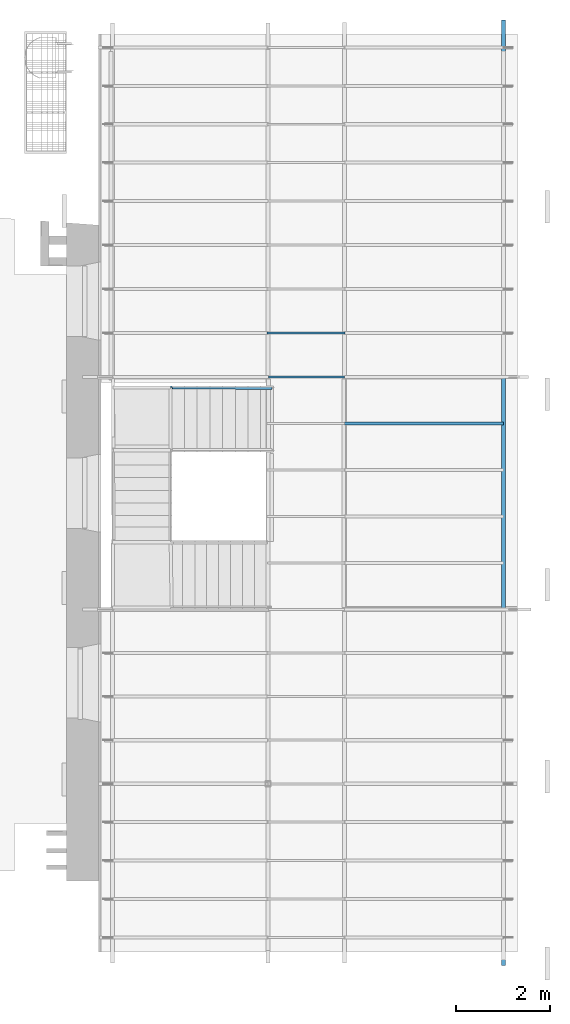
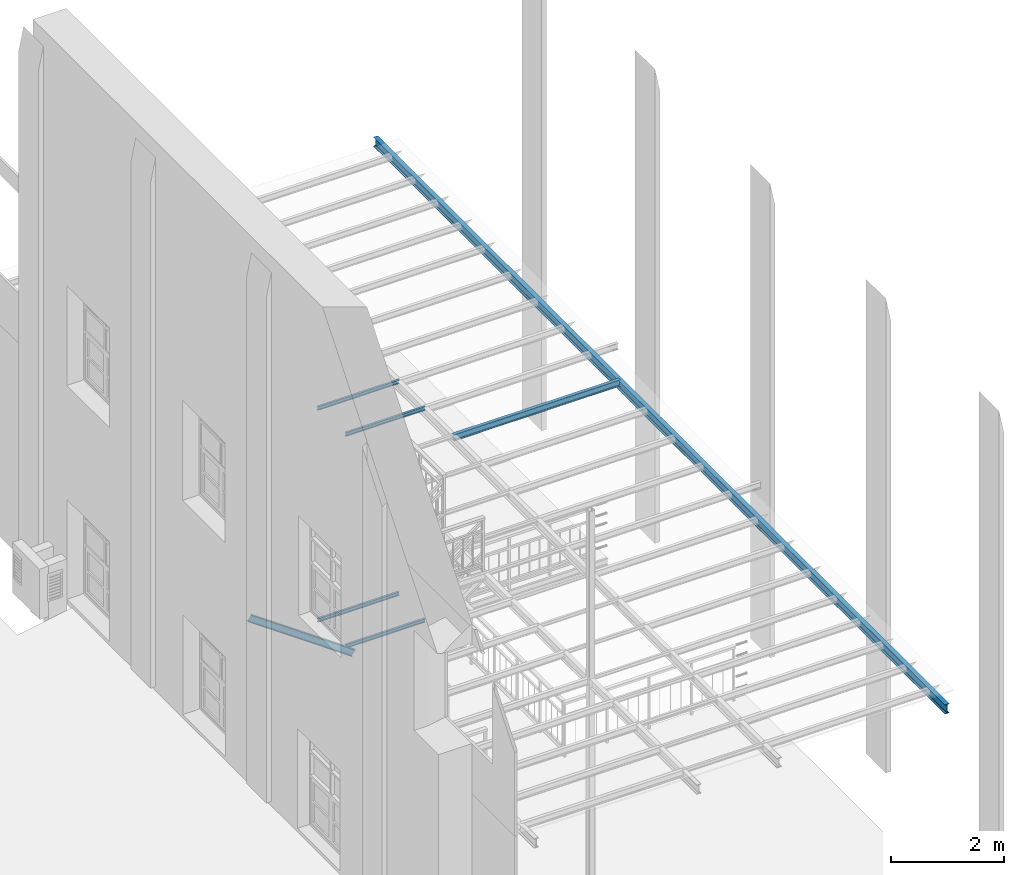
# One storey, part 15 of 33: 7 beams.
"""IFC2X3 building model written with IfcOpenShell, lengths in metres."""

from ifc_helpers import new_model, entity, si_unit, converted_unit, derived_unit, direction, frame, frame_2d, origin, place, context, subcontext, project, spatial, polyline, circle_curve, parameter, trimmed, segment, composite_curve, outline, extrude, material, type_object, element, save


model = new_model("IFC2X3")

# Units and contexts
model_context = context("Model", 3, precision=1e-05, world=origin(), true_north=direction((6.12303176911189e-17, 1.0)))
body_context = subcontext(model_context, "Body", "Model", "MODEL_VIEW")
ifc_project = project(units=[si_unit("LENGTHUNIT", "METRE"), si_unit("AREAUNIT", "SQUARE_METRE"), si_unit("VOLUMEUNIT", "CUBIC_METRE"), converted_unit("PLANEANGLEUNIT", "DEGREE", entity("IfcRatioMeasure", 0.0174532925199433), si_unit("PLANEANGLEUNIT", "RADIAN"), dimensions=[0, 0, 0, 0, 0, 0, 0]), si_unit("MASSUNIT", "GRAM", prefix="KILO"), derived_unit("MASSDENSITYUNIT", [(si_unit("MASSUNIT", "GRAM", prefix="KILO"), 1), (si_unit("LENGTHUNIT", "METRE"), -3)]), derived_unit("MOMENTOFINERTIAUNIT", [(si_unit("LENGTHUNIT", "METRE"), 4)]), si_unit("TIMEUNIT", "SECOND"), si_unit("FREQUENCYUNIT", "HERTZ"), si_unit("THERMODYNAMICTEMPERATUREUNIT", "DEGREE_CELSIUS"), derived_unit("THERMALTRANSMITTANCEUNIT", [(si_unit("MASSUNIT", "GRAM", prefix="KILO"), 1), (si_unit("THERMODYNAMICTEMPERATUREUNIT", "KELVIN"), -1), (si_unit("TIMEUNIT", "SECOND"), -3)]), derived_unit("VOLUMETRICFLOWRATEUNIT", [(si_unit("LENGTHUNIT", "METRE"), 3), (si_unit("TIMEUNIT", "SECOND"), -1)]), si_unit("ELECTRICCURRENTUNIT", "AMPERE"), si_unit("ELECTRICVOLTAGEUNIT", "VOLT"), si_unit("POWERUNIT", "WATT"), si_unit("FORCEUNIT", "NEWTON", prefix="KILO"), si_unit("ILLUMINANCEUNIT", "LUX"), si_unit("LUMINOUSFLUXUNIT", "LUMEN"), si_unit("LUMINOUSINTENSITYUNIT", "CANDELA"), derived_unit("USERDEFINED", [(si_unit("MASSUNIT", "GRAM", prefix="KILO"), -1), (si_unit("LENGTHUNIT", "METRE"), -2), (si_unit("TIMEUNIT", "SECOND"), 3), (si_unit("LUMINOUSFLUXUNIT", "LUMEN"), 1)]), derived_unit("LINEARVELOCITYUNIT", [(si_unit("LENGTHUNIT", "METRE"), 1), (si_unit("TIMEUNIT", "SECOND"), -1)]), si_unit("PRESSUREUNIT", "PASCAL"), derived_unit("USERDEFINED", [(si_unit("LENGTHUNIT", "METRE"), -2), (si_unit("MASSUNIT", "GRAM", prefix="KILO"), 1), (si_unit("TIMEUNIT", "SECOND"), -2)]), derived_unit("LINEARFORCEUNIT", [(si_unit("MASSUNIT", "GRAM", prefix="KILO"), 1), (si_unit("LENGTHUNIT", "METRE"), 1), (si_unit("TIMEUNIT", "SECOND"), -2), (si_unit("LENGTHUNIT", "METRE"), -1)]), derived_unit("PLANARFORCEUNIT", [(si_unit("MASSUNIT", "GRAM", prefix="KILO"), 1), (si_unit("LENGTHUNIT", "METRE"), 1), (si_unit("TIMEUNIT", "SECOND"), -2), (si_unit("LENGTHUNIT", "METRE"), -2)])], contexts=[model_context])

# Site, building, storey
site_placement = place(None, origin())
site = spatial("IfcSite", under=ifc_project, at=site_placement, Name="Superficie", CompositionType="ELEMENT")
building_placement = place(site_placement, origin())
building = spatial("IfcBuilding", under=site, at=building_placement, Name="Telegestiones", CompositionType="ELEMENT")
storey_placement = place(building_placement, frame((0.0, 0.0, 4.94)))
storey = spatial("IfcBuildingStorey", under=building, at=storey_placement, Name="Nivel 1_NPT", CompositionType="ELEMENT", Elevation=4.94)

# Beams
ifc_material = material(Name="Metal - Acero - 345 MPa")
beam_type_1 = type_object("IfcBeamType", Name="IPN - Secciones en I con alas cónicas:IPN 200", PredefinedType="NOTDEFINED")
beam_1_placement = place(storey_placement, frame((14.6648126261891, 14.0436072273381, 4.56), z_axis=(0.0, 0.0, 1.0), x_axis=(0.0, -1.0, 0.0)))
element("IfcBeam", 1, at=beam_1_placement, inside=storey, type_object=beam_type_1, material=ifc_material, Name="IPN - Secciones en I con alas cónicas:IPN 200", ObjectType="IPN - Secciones en I con alas cónicas:IPN 200", context=body_context, shape_type="SweptSolid", body=[
    extrude(outline(composite_curve([segment(polyline([(0.0957638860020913, -0.0449999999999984), (0.100000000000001, -0.0449999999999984)]), True, "CONTINUOUS"), segment(polyline([(0.100000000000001, -0.0449999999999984), (0.100000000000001, 0.0450000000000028)]), True, "CONTINUOUS"), segment(polyline([(0.100000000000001, 0.0450000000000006), (0.0957638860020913, 0.0450000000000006)]), True, "CONTINUOUS"), segment(trimmed(circle_curve(frame_2d((0.0957638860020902, 0.0405000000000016), x_axis=(0.0, 1.0)), 0.00449999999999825), [parameter(0.0)], [parameter(82.0303896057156)], True, "PARAMETER"), True, "CONTINUOUS"), segment(polyline([(0.0913073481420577, 0.0411239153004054), (0.0869794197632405, 0.0102101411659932)]), True, "CONTINUOUS"), segment(trimmed(circle_curve(frame_2d((0.0795518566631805, 0.0112500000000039), x_axis=(0.990341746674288, -0.138647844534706)), 0.00750000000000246), [parameter(277.969610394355)], [parameter(0.0)], True, "PARAMETER"), False, "CONTINUOUS"), segment(polyline([(0.0795518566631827, 0.00375000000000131), (-0.0795518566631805, 0.00375000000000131)]), True, "CONTINUOUS"), segment(trimmed(circle_curve(frame_2d((-0.0795518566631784, 0.0112500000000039), x_axis=(0.0, -1.0)), 0.00750000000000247), [parameter(277.969610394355)], [parameter(0.0)], True, "PARAMETER"), False, "CONTINUOUS"), segment(polyline([(-0.0869794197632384, 0.0102101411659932), (-0.0913073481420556, 0.0411239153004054)]), True, "CONTINUOUS"), segment(trimmed(circle_curve(frame_2d((-0.0957638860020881, 0.0405000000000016), x_axis=(0.990341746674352, 0.138647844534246)), 0.00449999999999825), [parameter(0.0)], [parameter(82.0303896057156)], True, "PARAMETER"), True, "CONTINUOUS"), segment(polyline([(-0.0957638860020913, 0.0450000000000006), (-0.0999999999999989, 0.0450000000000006)]), True, "CONTINUOUS"), segment(polyline([(-0.0999999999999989, 0.0450000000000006), (-0.0999999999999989, -0.0449999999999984)]), True, "CONTINUOUS"), segment(polyline([(-0.0999999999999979, -0.0449999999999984), (-0.0957638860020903, -0.0449999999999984)]), True, "CONTINUOUS"), segment(trimmed(circle_curve(frame_2d((-0.0957638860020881, -0.0404999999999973), x_axis=(0.0, -1.0)), 0.00449999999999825), [parameter(0.0)], [parameter(82.0303896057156)], True, "PARAMETER"), True, "CONTINUOUS"), segment(polyline([(-0.0913073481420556, -0.0411239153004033), (-0.0869794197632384, -0.0102101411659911)]), True, "CONTINUOUS"), segment(trimmed(circle_curve(frame_2d((-0.0795518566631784, -0.0112499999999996), x_axis=(-0.990341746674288, 0.138647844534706)), 0.00750000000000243), [parameter(277.969610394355)], [parameter(0.0)], True, "PARAMETER"), False, "CONTINUOUS"), segment(polyline([(-0.0795518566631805, -0.00374999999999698), (0.0795518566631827, -0.00374999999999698)]), True, "CONTINUOUS"), segment(trimmed(circle_curve(frame_2d((0.0795518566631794, -0.0112499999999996), x_axis=(0.0, 1.0)), 0.00750000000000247), [parameter(277.969610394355)], [parameter(0.0)], True, "PARAMETER"), False, "CONTINUOUS"), segment(polyline([(0.0869794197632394, -0.0102101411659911), (0.0913073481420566, -0.0411239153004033)]), True, "CONTINUOUS"), segment(trimmed(circle_curve(frame_2d((0.0957638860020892, -0.0404999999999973), x_axis=(-0.990341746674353, -0.138647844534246)), 0.00449999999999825), [parameter(0.0)], [parameter(82.0303896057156)], True, "PARAMETER"), True, "CONTINUOUS")], self_intersect=False)), frame((0.000487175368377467, 0.0, -0.130000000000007), z_axis=(1.0, 0.0, 0.0), x_axis=(0.0, 0.0, -1.0)), (0.0, 0.0, 1.0), 20.145),
])
beam_type_2 = type_object("IfcBeamType", Name="IPN - Secciones en I con alas cónicas:IPN 140", PredefinedType="NOTDEFINED")
beam_2_placement = place(storey_placement, frame((11.2748126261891, 5.44540459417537, 4.56)))
element("IfcBeam", 2, at=beam_2_placement, inside=storey, type_object=beam_type_2, material=ifc_material, Name="IPN - Secciones en I con alas cónicas:IPN 140", ObjectType="IPN - Secciones en I con alas cónicas:IPN 140", context=body_context, shape_type="SweptSolid", body=[
    extrude(outline(composite_curve([segment(polyline([(0.0666671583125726, -0.0330000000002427), (0.0699999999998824, -0.0330000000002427)]), True, "CONTINUOUS"), segment(polyline([(0.0699999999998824, -0.0330000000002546), (0.0700000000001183, 0.0329999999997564)]), True, "CONTINUOUS"), segment(polyline([(0.0700000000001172, 0.0329999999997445), (0.0666671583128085, 0.0329999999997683)]), True, "CONTINUOUS"), segment(trimmed(circle_curve(frame_2d((0.0666671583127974, 0.029599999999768), x_axis=(0.0, 1.0)), 0.00340000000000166), [parameter(0.0)], [parameter(82.0303896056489)], True, "PARAMETER"), True, "CONTINUOUS"), segment(polyline([(0.063299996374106, 0.030071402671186), (0.0601763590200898, 0.00775970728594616)]), True, "CONTINUOUS"), segment(trimmed(circle_curve(frame_2d((0.054531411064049, 0.00854999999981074), x_axis=(0.990341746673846, -0.138647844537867)), 0.00569999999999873), [parameter(277.969610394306)], [parameter(0.0)], True, "PARAMETER"), False, "CONTINUOUS"), segment(polyline([(0.0545314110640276, 0.00284999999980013), (-0.0545314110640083, 0.00285000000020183)]), True, "CONTINUOUS"), segment(trimmed(circle_curve(frame_2d((-0.054531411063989, 0.00855000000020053), x_axis=(0.0, -1.0)), 0.00569999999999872), [parameter(277.969610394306)], [parameter(0.0)], True, "PARAMETER"), False, "CONTINUOUS"), segment(polyline([(-0.0601763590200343, 0.00775970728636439), (-0.0632999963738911, 0.0300714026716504)]), True, "CONTINUOUS"), segment(trimmed(circle_curve(frame_2d((-0.0666671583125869, 0.0296000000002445), x_axis=(0.990341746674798, 0.138647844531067)), 0.00340000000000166), [parameter(0.0)], [parameter(82.0303896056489)], True, "PARAMETER"), True, "CONTINUOUS"), segment(polyline([(-0.0666671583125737, 0.0330000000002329), (-0.0699999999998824, 0.0330000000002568)]), True, "CONTINUOUS"), segment(polyline([(-0.0699999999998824, 0.0330000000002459), (-0.0700000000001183, -0.0329999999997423)]), True, "CONTINUOUS"), segment(polyline([(-0.0700000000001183, -0.0329999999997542), (-0.0666671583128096, -0.0329999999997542)]), True, "CONTINUOUS"), segment(trimmed(circle_curve(frame_2d((-0.0666671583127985, -0.0295999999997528), x_axis=(0.0, -1.0)), 0.00340000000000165), [parameter(0.0)], [parameter(82.0303896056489)], True, "PARAMETER"), True, "CONTINUOUS"), segment(polyline([(-0.063299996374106, -0.0300714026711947), (-0.0601763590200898, -0.007759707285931)]), True, "CONTINUOUS"), segment(trimmed(circle_curve(frame_2d((-0.054531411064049, -0.00854999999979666), x_axis=(-0.990341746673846, 0.138647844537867)), 0.00569999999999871), [parameter(277.969610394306)], [parameter(0.0)], True, "PARAMETER"), False, "CONTINUOUS"), segment(polyline([(-0.0545314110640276, -0.00284999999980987), (0.0545314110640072, -0.00285000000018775)]), True, "CONTINUOUS"), segment(trimmed(circle_curve(frame_2d((0.0545314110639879, -0.00855000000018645), x_axis=(0.0, 1.0)), 0.0056999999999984), [parameter(277.969610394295)], [parameter(0.0)], True, "PARAMETER"), False, "CONTINUOUS"), segment(polyline([(0.0601763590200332, -0.00775970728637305), (0.06329999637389, -0.0300714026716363)]), True, "CONTINUOUS"), segment(trimmed(circle_curve(frame_2d((0.0666671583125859, -0.0296000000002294), x_axis=(-0.990341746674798, -0.138647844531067)), 0.00340000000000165), [parameter(0.0)], [parameter(82.0303896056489)], True, "PARAMETER"), True, "CONTINUOUS")], self_intersect=False)), frame((0.0, 0.0, -0.100000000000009), z_axis=(1.0, 0.0, 0.0), x_axis=(0.0, 0.0, -1.0)), (0.0, 0.0, 1.0), 3.39),
])
beam_3_placement = place(storey_placement, frame((9.69756272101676, 6.20956539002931, -0.00569186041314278), z_axis=(0.575493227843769, -0.000740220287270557, 0.817806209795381), x_axis=(-0.817805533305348, 0.00105189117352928, 0.575493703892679)))
element("IfcBeam", 3, at=beam_3_placement, inside=storey, type_object=beam_type_2, material=ifc_material, Name="IPN - Secciones en I con alas cónicas:IPN 140", ObjectType="IPN - Secciones en I con alas cónicas:IPN 140", context=body_context, shape_type="SweptSolid", body=[
    extrude(outline(composite_curve([segment(polyline([(-0.0700000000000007, -0.0329999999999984), (-0.0666671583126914, -0.0329999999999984)]), True, "CONTINUOUS"), segment(trimmed(circle_curve(frame_2d((-0.0666671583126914, -0.0295999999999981), x_axis=(0.0, -1.0)), 0.00339999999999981), [parameter(0.0)], [parameter(82.0303896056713)], True, "PARAMETER"), True, "CONTINUOUS"), segment(polyline([(-0.0632999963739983, -0.0300714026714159), (-0.0601763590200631, -0.0077597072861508)]), True, "CONTINUOUS"), segment(trimmed(circle_curve(frame_2d((-0.0545314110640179, -0.00854999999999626), x_axis=(-0.990341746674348, 0.138647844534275)), 0.00569999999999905), [parameter(277.969610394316)], [parameter(0.0)], True, "PARAMETER"), False, "CONTINUOUS"), segment(polyline([(-0.0545314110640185, -0.00284999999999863), (0.054531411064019, -0.00284999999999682)]), True, "CONTINUOUS"), segment(trimmed(circle_curve(frame_2d((0.054531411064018, -0.00854999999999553), x_axis=(0.0, 1.0)), 0.00569999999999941), [parameter(277.969610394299)], [parameter(0.0)], True, "PARAMETER"), False, "CONTINUOUS"), segment(polyline([(0.0601763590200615, -0.00775970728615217), (0.0632999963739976, -0.030071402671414)]), True, "CONTINUOUS"), segment(trimmed(circle_curve(frame_2d((0.0666671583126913, -0.0295999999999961), x_axis=(-0.990341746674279, -0.138647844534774)), 0.00340000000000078), [parameter(0.0)], [parameter(82.0303896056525)], True, "PARAMETER"), True, "CONTINUOUS"), segment(polyline([(0.0666671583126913, -0.0329999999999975), (0.0699999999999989, -0.0329999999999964)]), True, "CONTINUOUS"), segment(polyline([(0.0699999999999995, -0.0329999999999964), (0.069999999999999, 0.0330000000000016)]), True, "CONTINUOUS"), segment(polyline([(0.0699999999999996, 0.0330000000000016), (0.0666671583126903, 0.0330000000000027)]), True, "CONTINUOUS"), segment(trimmed(circle_curve(frame_2d((0.0666671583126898, 0.0296000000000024), x_axis=(0.0, 1.0)), 0.0034000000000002), [parameter(0.0)], [parameter(82.0303896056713)], True, "PARAMETER"), True, "CONTINUOUS"), segment(polyline([(0.0632999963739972, 0.0300714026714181), (0.0601763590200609, 0.00775970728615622)]), True, "CONTINUOUS"), segment(trimmed(circle_curve(frame_2d((0.0545314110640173, 0.00855000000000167), x_axis=(0.990341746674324, -0.13864784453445)), 0.0057000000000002), [parameter(277.969610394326)], [parameter(0.0)], True, "PARAMETER"), False, "CONTINUOUS"), segment(polyline([(0.0545314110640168, 0.00285000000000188), (-0.0545314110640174, 0.00285000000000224)]), True, "CONTINUOUS"), segment(trimmed(circle_curve(frame_2d((-0.0545314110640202, 0.00854999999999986), x_axis=(0.0, -1.0)), 0.00569999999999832), [parameter(277.969610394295)], [parameter(0.0)], True, "PARAMETER"), False, "CONTINUOUS"), segment(polyline([(-0.0601763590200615, 0.00775970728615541), (-0.0632999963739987, 0.0300714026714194)]), True, "CONTINUOUS"), segment(trimmed(circle_curve(frame_2d((-0.0666671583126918, 0.0296000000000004), x_axis=(0.99034174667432, 0.13864784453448)), 0.00340000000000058), [parameter(0.0)], [parameter(82.030389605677)], True, "PARAMETER"), True, "CONTINUOUS"), segment(polyline([(-0.0666671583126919, 0.0330000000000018), (-0.0700000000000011, 0.0330000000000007)]), True, "CONTINUOUS"), segment(polyline([(-0.0700000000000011, 0.0330000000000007), (-0.0700000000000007, -0.0329999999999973)]), True, "CONTINUOUS")], self_intersect=False)), frame((-0.0376567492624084, 0.0, -0.0700000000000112), z_axis=(1.0, 0.0, 0.0), x_axis=(0.0, 0.0, -1.0)), (0.0, 0.0, 1.0), 2.58261521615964),
])
beam_type_3 = type_object("IfcBeamType", Name="IPN - Secciones en I con alas cónicas:IPN 80", PredefinedType="NOTDEFINED")
beam_4_placement = place(storey_placement, frame((9.64481262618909, 6.43560722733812, 0.0)))
element("IfcBeam", 4, at=beam_4_placement, inside=storey, type_object=beam_type_3, material=ifc_material, Name="IPN - Secciones en I con alas cónicas:IPN 80", ObjectType="IPN - Secciones en I con alas cónicas:IPN 80", context=body_context, shape_type="SweptSolid", body=[
    extrude(outline(composite_curve([segment(polyline([(0.0375704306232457, -0.0210000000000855), (0.0399999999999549, -0.0210000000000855)]), True, "CONTINUOUS"), segment(polyline([(0.0399999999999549, -0.0210000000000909), (0.0400000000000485, 0.0209999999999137)]), True, "CONTINUOUS"), segment(polyline([(0.0400000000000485, 0.0209999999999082), (0.0375704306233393, 0.0209999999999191)]), True, "CONTINUOUS"), segment(trimmed(circle_curve(frame_2d((0.0375704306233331, 0.0186999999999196), x_axis=(0.0, 1.0)), 0.00229999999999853), [parameter(0.0)], [parameter(82.0303896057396)], True, "PARAMETER"), True, "CONTINUOUS"), segment(polyline([(0.0352926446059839, 0.0190188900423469), (0.0333732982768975, 0.00530927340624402)]), True, "CONTINUOUS"), segment(trimmed(circle_curve(frame_2d((0.0295109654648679, 0.00584999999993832), x_axis=(0.99034174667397, -0.138647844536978)), 0.00390000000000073), [parameter(277.96961039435)], [parameter(0.0)], True, "PARAMETER"), False, "CONTINUOUS"), segment(polyline([(0.0295109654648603, 0.00194999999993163), (-0.0295109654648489, 0.00195000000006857)]), True, "CONTINUOUS"), segment(trimmed(circle_curve(frame_2d((-0.0295109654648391, 0.00585000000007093), x_axis=(0.0, -1.0)), 0.00390000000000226), [parameter(277.969610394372)], [parameter(0.0)], True, "PARAMETER"), False, "CONTINUOUS"), segment(polyline([(-0.0333732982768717, 0.00530927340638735), (-0.035292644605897, 0.0190188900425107)]), True, "CONTINUOUS"), segment(trimmed(circle_curve(frame_2d((-0.037570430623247, 0.0187000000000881), x_axis=(0.990341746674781, 0.138647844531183)), 0.00229999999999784), [parameter(0.0)], [parameter(82.0303896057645)], True, "PARAMETER"), True, "CONTINUOUS"), segment(polyline([(-0.037570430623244, 0.0210000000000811), (-0.0399999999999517, 0.0210000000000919)]), True, "CONTINUOUS"), segment(polyline([(-0.0399999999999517, 0.0210000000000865), (-0.0400000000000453, -0.0209999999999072)]), True, "CONTINUOUS"), segment(polyline([(-0.0400000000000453, -0.0209999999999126), (-0.0375704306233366, -0.0209999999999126)]), True, "CONTINUOUS"), segment(trimmed(circle_curve(frame_2d((-0.0375704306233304, -0.0186999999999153), x_axis=(0.0, -1.0)), 0.00229999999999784), [parameter(0.0)], [parameter(82.0303896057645)], True, "PARAMETER"), True, "CONTINUOUS"), segment(polyline([(-0.0352926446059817, -0.0190188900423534), (-0.0333732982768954, -0.0053092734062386)]), True, "CONTINUOUS"), segment(trimmed(circle_curve(frame_2d((-0.0295109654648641, -0.00584999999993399), x_axis=(-0.990341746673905, 0.138647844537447)), 0.00390000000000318), [parameter(277.969610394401)], [parameter(0.0)], True, "PARAMETER"), False, "CONTINUOUS"), segment(polyline([(-0.0295109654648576, -0.00194999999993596), (0.0295109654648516, -0.00195000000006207)]), True, "CONTINUOUS"), segment(trimmed(circle_curve(frame_2d((0.0295109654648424, -0.00585000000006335), x_axis=(0.0, 1.0)), 0.00390000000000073), [parameter(277.96961039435)], [parameter(0.0)], True, "PARAMETER"), False, "CONTINUOUS"), segment(polyline([(0.0333732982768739, -0.00530927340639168), (0.0352926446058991, -0.0190188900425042)]), True, "CONTINUOUS"), segment(trimmed(circle_curve(frame_2d((0.0375704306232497, -0.0187000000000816), x_axis=(-0.990341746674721, -0.138647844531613)), 0.00229999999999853), [parameter(0.0)], [parameter(82.0303896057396)], True, "PARAMETER"), True, "CONTINUOUS")], self_intersect=False)), frame((0.0120000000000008, 0.0, -0.0700000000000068), z_axis=(1.0, 0.0, 0.0), x_axis=(0.0, 0.0, -1.0)), (0.0, 0.0, 1.0), 1.615),
])
beam_5_placement = place(storey_placement, frame((9.6448126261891, 7.37460722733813, 0.0)))
element("IfcBeam", 5, at=beam_5_placement, inside=storey, type_object=beam_type_3, material=ifc_material, Name="IPN - Secciones en I con alas cónicas:IPN 80", ObjectType="IPN - Secciones en I con alas cónicas:IPN 80", context=body_context, shape_type="SweptSolid", body=[
    extrude(outline(composite_curve([segment(polyline([(0.0375704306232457, -0.0210000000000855), (0.0399999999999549, -0.0210000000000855)]), True, "CONTINUOUS"), segment(polyline([(0.0399999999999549, -0.0210000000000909), (0.0400000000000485, 0.0209999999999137)]), True, "CONTINUOUS"), segment(polyline([(0.0400000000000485, 0.0209999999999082), (0.0375704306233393, 0.0209999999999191)]), True, "CONTINUOUS"), segment(trimmed(circle_curve(frame_2d((0.0375704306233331, 0.0186999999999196), x_axis=(0.0, 1.0)), 0.00229999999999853), [parameter(0.0)], [parameter(82.0303896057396)], True, "PARAMETER"), True, "CONTINUOUS"), segment(polyline([(0.0352926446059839, 0.0190188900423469), (0.0333732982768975, 0.00530927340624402)]), True, "CONTINUOUS"), segment(trimmed(circle_curve(frame_2d((0.0295109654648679, 0.00584999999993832), x_axis=(0.99034174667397, -0.138647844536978)), 0.00390000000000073), [parameter(277.96961039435)], [parameter(0.0)], True, "PARAMETER"), False, "CONTINUOUS"), segment(polyline([(0.0295109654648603, 0.00194999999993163), (-0.0295109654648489, 0.00195000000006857)]), True, "CONTINUOUS"), segment(trimmed(circle_curve(frame_2d((-0.0295109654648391, 0.00585000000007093), x_axis=(0.0, -1.0)), 0.00390000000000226), [parameter(277.969610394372)], [parameter(0.0)], True, "PARAMETER"), False, "CONTINUOUS"), segment(polyline([(-0.0333732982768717, 0.00530927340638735), (-0.035292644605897, 0.0190188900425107)]), True, "CONTINUOUS"), segment(trimmed(circle_curve(frame_2d((-0.037570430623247, 0.0187000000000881), x_axis=(0.990341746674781, 0.138647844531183)), 0.00229999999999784), [parameter(0.0)], [parameter(82.0303896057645)], True, "PARAMETER"), True, "CONTINUOUS"), segment(polyline([(-0.037570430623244, 0.0210000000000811), (-0.0399999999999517, 0.0210000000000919)]), True, "CONTINUOUS"), segment(polyline([(-0.0399999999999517, 0.0210000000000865), (-0.0400000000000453, -0.0209999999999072)]), True, "CONTINUOUS"), segment(polyline([(-0.0400000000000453, -0.0209999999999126), (-0.0375704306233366, -0.0209999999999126)]), True, "CONTINUOUS"), segment(trimmed(circle_curve(frame_2d((-0.0375704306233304, -0.0186999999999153), x_axis=(0.0, -1.0)), 0.00229999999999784), [parameter(0.0)], [parameter(82.0303896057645)], True, "PARAMETER"), True, "CONTINUOUS"), segment(polyline([(-0.0352926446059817, -0.0190188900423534), (-0.0333732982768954, -0.0053092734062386)]), True, "CONTINUOUS"), segment(trimmed(circle_curve(frame_2d((-0.0295109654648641, -0.00584999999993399), x_axis=(-0.990341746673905, 0.138647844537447)), 0.00390000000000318), [parameter(277.969610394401)], [parameter(0.0)], True, "PARAMETER"), False, "CONTINUOUS"), segment(polyline([(-0.0295109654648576, -0.00194999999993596), (0.0295109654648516, -0.00195000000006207)]), True, "CONTINUOUS"), segment(trimmed(circle_curve(frame_2d((0.0295109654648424, -0.00585000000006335), x_axis=(0.0, 1.0)), 0.00390000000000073), [parameter(277.96961039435)], [parameter(0.0)], True, "PARAMETER"), False, "CONTINUOUS"), segment(polyline([(0.0333732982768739, -0.00530927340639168), (0.0352926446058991, -0.0190188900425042)]), True, "CONTINUOUS"), segment(trimmed(circle_curve(frame_2d((0.0375704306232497, -0.0187000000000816), x_axis=(-0.990341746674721, -0.138647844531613)), 0.00229999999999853), [parameter(0.0)], [parameter(82.0303896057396)], True, "PARAMETER"), True, "CONTINUOUS")], self_intersect=False)), frame((-0.0149999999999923, 0.0, -0.0700000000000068), z_axis=(1.0, 0.0, 0.0), x_axis=(0.0, 0.0, -1.0)), (0.0, 0.0, 1.0), 1.66),
])
beam_6_placement = place(storey_placement, frame((9.64481262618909, 6.43560722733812, 4.56)))
element("IfcBeam", 6, at=beam_6_placement, inside=storey, type_object=beam_type_3, material=ifc_material, Name="IPN - Secciones en I con alas cónicas:IPN 80", ObjectType="IPN - Secciones en I con alas cónicas:IPN 80", context=body_context, shape_type="SweptSolid", body=[
    extrude(outline(composite_curve([segment(polyline([(0.0375704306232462, -0.0210000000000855), (0.0399999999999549, -0.0210000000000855)]), True, "CONTINUOUS"), segment(polyline([(0.0399999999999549, -0.0210000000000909), (0.0400000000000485, 0.0209999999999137)]), True, "CONTINUOUS"), segment(polyline([(0.0400000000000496, 0.0209999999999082), (0.0375704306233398, 0.0209999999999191)]), True, "CONTINUOUS"), segment(trimmed(circle_curve(frame_2d((0.0375704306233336, 0.0186999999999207), x_axis=(0.0, 1.0)), 0.00229999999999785), [parameter(0.0)], [parameter(82.0303896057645)], True, "PARAMETER"), True, "CONTINUOUS"), segment(polyline([(0.035292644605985, 0.0190188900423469), (0.0333732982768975, 0.00530927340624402)]), True, "CONTINUOUS"), segment(trimmed(circle_curve(frame_2d((0.0295109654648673, 0.00584999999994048), x_axis=(0.990341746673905, -0.138647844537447)), 0.00390000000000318), [parameter(277.969610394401)], [parameter(0.0)], True, "PARAMETER"), False, "CONTINUOUS"), segment(polyline([(0.0295109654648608, 0.00194999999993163), (-0.0295109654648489, 0.00195000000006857)]), True, "CONTINUOUS"), segment(trimmed(circle_curve(frame_2d((-0.0295109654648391, 0.00585000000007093), x_axis=(0.0, -1.0)), 0.00390000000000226), [parameter(277.969610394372)], [parameter(0.0)], True, "PARAMETER"), False, "CONTINUOUS"), segment(polyline([(-0.0333732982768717, 0.00530927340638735), (-0.035292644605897, 0.0190188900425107)]), True, "CONTINUOUS"), segment(trimmed(circle_curve(frame_2d((-0.037570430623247, 0.0187000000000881), x_axis=(0.990341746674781, 0.138647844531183)), 0.00229999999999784), [parameter(0.0)], [parameter(82.0303896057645)], True, "PARAMETER"), True, "CONTINUOUS"), segment(polyline([(-0.037570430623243, 0.0210000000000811), (-0.0399999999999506, 0.0210000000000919)]), True, "CONTINUOUS"), segment(polyline([(-0.0399999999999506, 0.0210000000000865), (-0.0400000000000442, -0.0209999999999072)]), True, "CONTINUOUS"), segment(polyline([(-0.0400000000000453, -0.0209999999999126), (-0.0375704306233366, -0.0209999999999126)]), True, "CONTINUOUS"), segment(trimmed(circle_curve(frame_2d((-0.0375704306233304, -0.0186999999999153), x_axis=(0.0, -1.0)), 0.00229999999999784), [parameter(0.0)], [parameter(82.0303896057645)], True, "PARAMETER"), True, "CONTINUOUS"), segment(polyline([(-0.0352926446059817, -0.0190188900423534), (-0.0333732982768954, -0.0053092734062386)]), True, "CONTINUOUS"), segment(trimmed(circle_curve(frame_2d((-0.0295109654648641, -0.00584999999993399), x_axis=(-0.990341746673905, 0.138647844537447)), 0.00390000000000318), [parameter(277.969610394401)], [parameter(0.0)], True, "PARAMETER"), False, "CONTINUOUS"), segment(polyline([(-0.0295109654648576, -0.00194999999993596), (0.0295109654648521, -0.00195000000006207)]), True, "CONTINUOUS"), segment(trimmed(circle_curve(frame_2d((0.0295109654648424, -0.00585000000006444), x_axis=(0.0, 1.0)), 0.00390000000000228), [parameter(277.969610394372)], [parameter(0.0)], True, "PARAMETER"), False, "CONTINUOUS"), segment(polyline([(0.0333732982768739, -0.00530927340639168), (0.0352926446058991, -0.0190188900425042)]), True, "CONTINUOUS"), segment(trimmed(circle_curve(frame_2d((0.0375704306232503, -0.0187000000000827), x_axis=(-0.990341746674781, -0.138647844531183)), 0.00229999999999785), [parameter(0.0)], [parameter(82.0303896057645)], True, "PARAMETER"), True, "CONTINUOUS")], self_intersect=False)), frame((0.0120000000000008, 0.0, -0.0700000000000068), z_axis=(1.0, 0.0, 0.0), x_axis=(0.0, 0.0, -1.0)), (0.0, 0.0, 1.0), 1.615),
])
beam_7_placement = place(storey_placement, frame((9.6448126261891, 7.37460722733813, 4.56)))
element("IfcBeam", 7, at=beam_7_placement, inside=storey, type_object=beam_type_3, material=ifc_material, Name="IPN - Secciones en I con alas cónicas:IPN 80", ObjectType="IPN - Secciones en I con alas cónicas:IPN 80", context=body_context, shape_type="SweptSolid", body=[
    extrude(outline(composite_curve([segment(polyline([(0.0375704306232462, -0.0210000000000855), (0.0399999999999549, -0.0210000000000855)]), True, "CONTINUOUS"), segment(polyline([(0.0399999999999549, -0.0210000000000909), (0.0400000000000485, 0.0209999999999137)]), True, "CONTINUOUS"), segment(polyline([(0.0400000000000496, 0.0209999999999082), (0.0375704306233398, 0.0209999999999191)]), True, "CONTINUOUS"), segment(trimmed(circle_curve(frame_2d((0.0375704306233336, 0.0186999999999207), x_axis=(0.0, 1.0)), 0.00229999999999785), [parameter(0.0)], [parameter(82.0303896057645)], True, "PARAMETER"), True, "CONTINUOUS"), segment(polyline([(0.035292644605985, 0.0190188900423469), (0.0333732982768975, 0.00530927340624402)]), True, "CONTINUOUS"), segment(trimmed(circle_curve(frame_2d((0.0295109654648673, 0.00584999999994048), x_axis=(0.990341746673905, -0.138647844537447)), 0.00390000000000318), [parameter(277.969610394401)], [parameter(0.0)], True, "PARAMETER"), False, "CONTINUOUS"), segment(polyline([(0.0295109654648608, 0.00194999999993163), (-0.0295109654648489, 0.00195000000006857)]), True, "CONTINUOUS"), segment(trimmed(circle_curve(frame_2d((-0.0295109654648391, 0.00585000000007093), x_axis=(0.0, -1.0)), 0.00390000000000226), [parameter(277.969610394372)], [parameter(0.0)], True, "PARAMETER"), False, "CONTINUOUS"), segment(polyline([(-0.0333732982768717, 0.00530927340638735), (-0.035292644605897, 0.0190188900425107)]), True, "CONTINUOUS"), segment(trimmed(circle_curve(frame_2d((-0.037570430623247, 0.0187000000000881), x_axis=(0.990341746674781, 0.138647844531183)), 0.00229999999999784), [parameter(0.0)], [parameter(82.0303896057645)], True, "PARAMETER"), True, "CONTINUOUS"), segment(polyline([(-0.037570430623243, 0.0210000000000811), (-0.0399999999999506, 0.0210000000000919)]), True, "CONTINUOUS"), segment(polyline([(-0.0399999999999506, 0.0210000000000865), (-0.0400000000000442, -0.0209999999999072)]), True, "CONTINUOUS"), segment(polyline([(-0.0400000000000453, -0.0209999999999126), (-0.0375704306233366, -0.0209999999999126)]), True, "CONTINUOUS"), segment(trimmed(circle_curve(frame_2d((-0.0375704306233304, -0.0186999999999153), x_axis=(0.0, -1.0)), 0.00229999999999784), [parameter(0.0)], [parameter(82.0303896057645)], True, "PARAMETER"), True, "CONTINUOUS"), segment(polyline([(-0.0352926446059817, -0.0190188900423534), (-0.0333732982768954, -0.0053092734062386)]), True, "CONTINUOUS"), segment(trimmed(circle_curve(frame_2d((-0.0295109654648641, -0.00584999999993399), x_axis=(-0.990341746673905, 0.138647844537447)), 0.00390000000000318), [parameter(277.969610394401)], [parameter(0.0)], True, "PARAMETER"), False, "CONTINUOUS"), segment(polyline([(-0.0295109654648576, -0.00194999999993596), (0.0295109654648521, -0.00195000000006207)]), True, "CONTINUOUS"), segment(trimmed(circle_curve(frame_2d((0.0295109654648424, -0.00585000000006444), x_axis=(0.0, 1.0)), 0.00390000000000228), [parameter(277.969610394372)], [parameter(0.0)], True, "PARAMETER"), False, "CONTINUOUS"), segment(polyline([(0.0333732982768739, -0.00530927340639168), (0.0352926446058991, -0.0190188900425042)]), True, "CONTINUOUS"), segment(trimmed(circle_curve(frame_2d((0.0375704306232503, -0.0187000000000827), x_axis=(-0.990341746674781, -0.138647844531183)), 0.00229999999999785), [parameter(0.0)], [parameter(82.0303896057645)], True, "PARAMETER"), True, "CONTINUOUS")], self_intersect=False)), frame((-0.0149999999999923, 0.0, -0.0700000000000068), z_axis=(1.0, 0.0, 0.0), x_axis=(0.0, 0.0, -1.0)), (0.0, 0.0, 1.0), 1.66),
])

save(model, "model.ifc")
